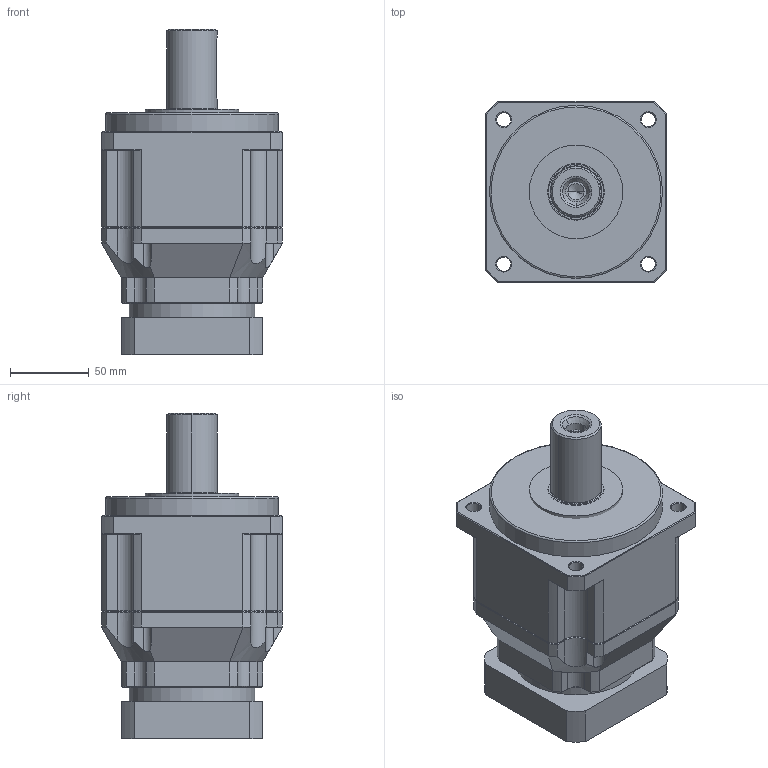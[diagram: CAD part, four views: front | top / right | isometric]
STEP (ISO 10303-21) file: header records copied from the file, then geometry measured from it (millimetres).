
FILE_DESCRIPTION(/* description */ (''),/* implementation_level */ '2;1');
FILE_NAME(/* name */ 'TB115-L2-14-60-75-M5-42.5-5.stp',/* time_stamp */ '2022-02-25T08:55:37+08:00',/* author */ (''),/* organization */ (''),/* preprocessor_version */ 'ST-DEVELOPER v16',/* originating_system */ 'SIEMENS PLM Software NX 10.0',/* authorisation */ '');
FILE_SCHEMA (('CONFIG_CONTROL_DESIGN'));
Length unit declared in the file: millimetre
Products named in the file (1): _model7
Bounding box: 115 x 115 x 207 mm (x, y, z)
Volume: 1432111.6 mm3; surface area: 170145 mm2
Topology: 7 solids, 7 shells, 466 faces, 1138 edges, 691 vertices
Faces by surface type: plane 167, cone 151, cylinder 136, torus 8, bspline 4
Full cylindrical faces by diameter (mm): 4.2 x10, 5.2 x1, 5.5 x4, 6.5 x1, 12.1 x1, 14 x1, 26.6 x1, 27.5 x1, 28 x2, 31 x1, 38 x1, 40 x1, 59.5 x1, 60 x1, 66 x1, 76 x1, 80 x2, 85 x1, 110 x1
Entity records: 13735 total; most frequent: CARTESIAN_POINT 3087, DIRECTION 2251, ORIENTED_EDGE 2066, EDGE_CURVE 1033, AXIS2_PLACEMENT_3D 881, VERTEX_POINT 675, EDGE_LOOP 586, LINE 489
